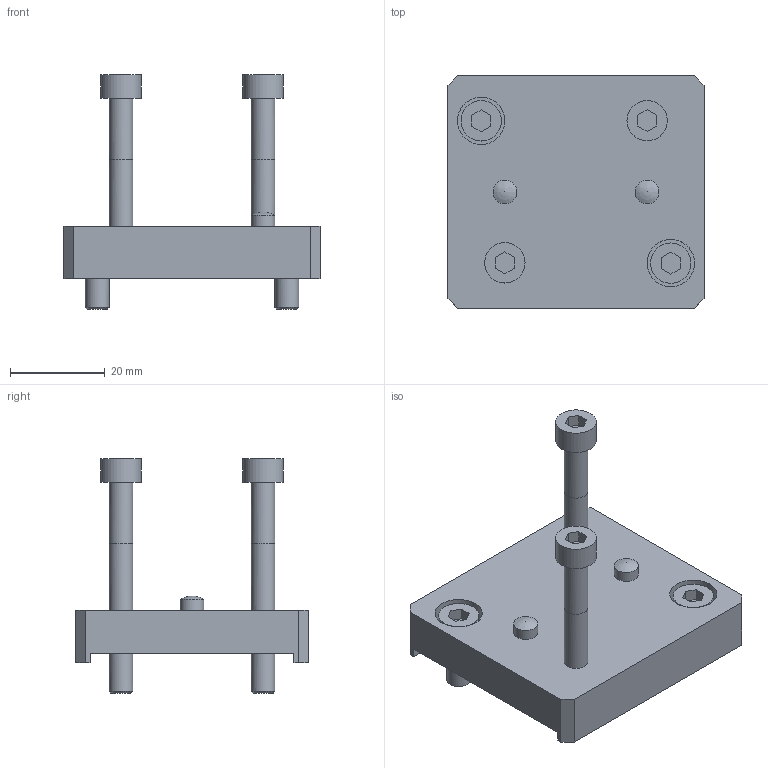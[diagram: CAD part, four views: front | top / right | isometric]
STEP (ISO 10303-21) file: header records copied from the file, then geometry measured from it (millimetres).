
FILE_DESCRIPTION( ( 'STEP AP214' ), '1' );
FILE_NAME( 'U:/Etudes/Top Solid/BIBLIO 3D AVM/STEP/N_ELECTRIQUE/Linéaires/LG2008/8319119.step', '2008-04-04T08:11:49', ( ' ' ), ( ' ' ), 'XStep 1.0', ' ', ' ' );
FILE_SCHEMA( ( 'automotive_design' ) );
Length unit declared in the file: millimetre
Products named in the file (1): 1
Bounding box: 54 x 49 x 49.5 mm (x, y, z)
Volume: 25945.2 mm3; surface area: 10198.6 mm2
Topology: 1 solids, 3 shells, 86 faces, 191 edges, 127 vertices
Faces by surface type: plane 58, cylinder 22, cone 4, bspline 2
Full cylindrical faces by diameter (mm): 4.134 x2, 5 x12, 5.5 x2, 8.5 x4, 10 x2
Entity records: 3014 total; most frequent: CARTESIAN_POINT 543, DIRECTION 358, ORIENTED_EDGE 304, EDGE_CURVE 152, EDGE_LOOP 134, AXIS2_PLACEMENT_3D 125, VERTEX_POINT 118, FACE_OUTER_BOUND 108
